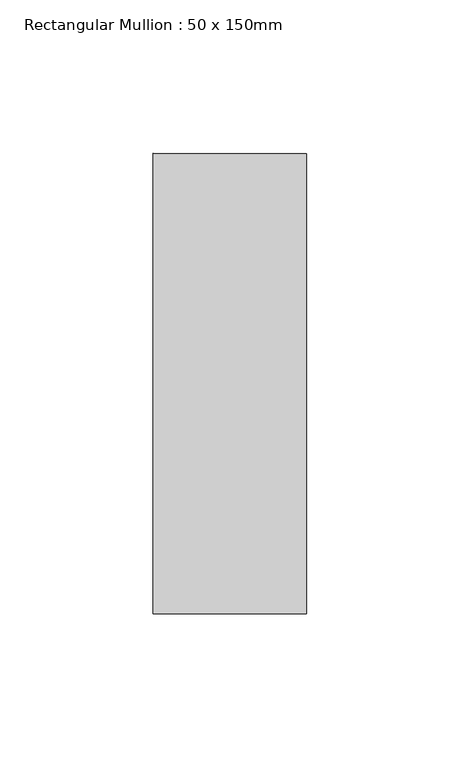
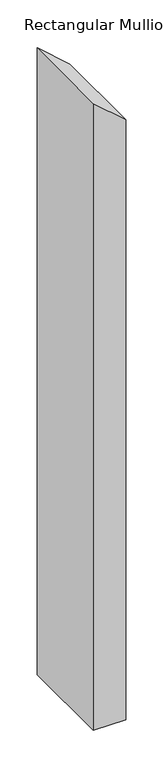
"""IFC4 building model written with IfcOpenShell, lengths in millimetres: member geometry, Rectangular Mullion : 50 x 150mm."""

import ifcopenshell
import ifcopenshell.guid

model = None  # the IFC model being written
_history = None  # IfcOwnerHistory: only IFC2X3 demands one
_inside = {}  # id of a spatial element -> (the spatial element, [elements in it])
_under = {}  # id of a project, library or spatial element -> (it, [spatial elements below it])
_declared = {}  # id of a project -> (the project, [libraries it declares])
_typed = {}  # id of a type object -> (the type object, [elements of that type])
_made_of = {}  # id of a material, layer set ... -> (it, [elements and type objects made of it])


def new_model(schema):
    """Start an empty IFC model of exactly this schema.

    Asked for "IFC4X3", IfcOpenShell would pick the latest addendum, in which some entities
    have other attributes; the version numbers below select the first issue.
    IFC2X3 requires an IfcOwnerHistory on every rooted entity: one is made here for all.
    """
    global model, _history
    if schema == "IFC4X3":
        model = ifcopenshell.file(schema_version=(4, 3, 0, 0))
    else:
        model = ifcopenshell.file(schema=schema)
    _inside.clear()
    _under.clear()
    _declared.clear()
    _typed.clear()
    _made_of.clear()
    _history = None
    if model.schema == "IFC2X3":
        org = make("IfcOrganization", Name="unknown")
        user = make(
            "IfcPersonAndOrganization",
            ThePerson=make("IfcPerson", FamilyName="unknown"),
            TheOrganization=org,
        )
        app = make(
            "IfcApplication",
            ApplicationDeveloper=org,
            Version="unknown",
            ApplicationFullName="unknown",
            ApplicationIdentifier="unknown",
        )
        _history = make(
            "IfcOwnerHistory",
            OwningUser=user,
            OwningApplication=app,
            ChangeAction="ADDED",
            CreationDate=0,
        )
    return model


def make(cls, **values):
    """One entity of the class cls with the attributes given. An attribute that is None is left unset."""
    return model.create_entity(
        cls, **{name: value for name, value in values.items() if value is not None}
    )


def rooted(cls, **values):
    """An entity with a GlobalId (a new one), such as an element, a storey or a relation."""
    return make(cls, GlobalId=ifcopenshell.guid.new(), OwnerHistory=_history, **values)


def si_unit(unit_type, name, prefix=None):
    """IfcSIUnit, for example si_unit("LENGTHUNIT", "METRE", prefix="MILLI")."""
    return make("IfcSIUnit", UnitType=unit_type, Prefix=prefix, Name=name)


def assignment(units):
    """IfcUnitAssignment: the units of a project."""
    return None if units is None else make("IfcUnitAssignment", Units=units)


def point(xyz):
    """IfcCartesianPoint."""
    return None if xyz is None else make("IfcCartesianPoint", Coordinates=xyz)


def direction(xyz):
    """IfcDirection."""
    return None if xyz is None else make("IfcDirection", DirectionRatios=xyz)


def frame(location, z_axis=None, x_axis=None):
    """IfcAxis2Placement3D, a coordinate frame: its origin and axes. An axis left out is left unset."""
    return make(
        "IfcAxis2Placement3D",
        Location=point(location),
        Axis=direction(z_axis),
        RefDirection=direction(x_axis),
    )


def origin():
    """The frame at (0, 0, 0) with its axes left unset."""
    return frame((0.0, 0.0, 0.0))


def place(relative_to, where):
    """IfcLocalPlacement: puts the frame where relative to a parent placement (None: the world)."""
    return make(
        "IfcLocalPlacement", PlacementRelTo=relative_to, RelativePlacement=where
    )


def context(
    kind, dimensions, precision=None, world=None, true_north=None, identifier=None
):
    """IfcGeometricRepresentationContext, for example the 3D "Model" context."""
    return make(
        "IfcGeometricRepresentationContext",
        ContextIdentifier=identifier,
        ContextType=kind,
        CoordinateSpaceDimension=dimensions,
        Precision=precision,
        WorldCoordinateSystem=world,
        TrueNorth=true_north,
    )


def project(units=None, contexts=None):
    """IfcProject with its units and contexts."""
    return rooted(
        "IfcProject",
        Name="project",
        RepresentationContexts=contexts,
        UnitsInContext=assignment(units),
    )


def spatial(cls, under=None, at=None, **own):
    """A site, building, storey or space (cls), placed at a placement, below another one or the project."""
    s = rooted(cls, ObjectPlacement=at, **own)
    if under is not None:
        _under.setdefault(under.id(), (under, []))[1].append(s)
    return s


def polyline(points):
    """IfcPolyline through the points."""
    return make("IfcPolyline", Points=[point(p) for p in points])


def outline(outer, holes=None, kind="AREA"):
    """IfcArbitraryClosedProfileDef: a profile drawn as a closed curve; with holes, ...WithVoids."""
    if holes is None:
        return make("IfcArbitraryClosedProfileDef", ProfileType=kind, OuterCurve=outer)
    return make(
        "IfcArbitraryProfileDefWithVoids",
        ProfileType=kind,
        OuterCurve=outer,
        InnerCurves=holes,
    )


def extrude(swept, where, along, depth):
    """IfcExtrudedAreaSolid: the profile swept, set in the frame where, extruded along a direction by depth."""
    return make(
        "IfcExtrudedAreaSolid",
        SweptArea=swept,
        Position=where,
        ExtrudedDirection=direction(along),
        Depth=depth,
    )


def shape(context_of_items, identifier, shape_type, items):
    """IfcShapeRepresentation: the items that make up one representation, for example the "Body"."""
    return make(
        "IfcShapeRepresentation",
        ContextOfItems=context_of_items,
        RepresentationIdentifier=identifier,
        RepresentationType=shape_type,
        Items=items,
    )


def source(mapping_origin, context_of_items, identifier, shape_type, items):
    """IfcRepresentationMap: a shape defined once, which mapped items show again and again."""
    return make(
        "IfcRepresentationMap",
        MappingOrigin=mapping_origin,
        MappedRepresentation=shape(context_of_items, identifier, shape_type, items),
    )


def transform(
    local_origin,
    x_axis=None,
    y_axis=None,
    z_axis=None,
    scale=None,
    scale2=None,
    scale3=None,
    uniform=True,
):
    """IfcCartesianTransformationOperator3D, or its non-uniform kind. x_axis, y_axis, z_axis: its Axis1, 2, 3."""
    if uniform:
        return make(
            "IfcCartesianTransformationOperator3D",
            Axis1=direction(x_axis),
            Axis2=direction(y_axis),
            LocalOrigin=point(local_origin),
            Scale=scale,
            Axis3=direction(z_axis),
        )
    return make(
        "IfcCartesianTransformationOperator3DnonUniform",
        Axis1=direction(x_axis),
        Axis2=direction(y_axis),
        LocalOrigin=point(local_origin),
        Scale=scale,
        Axis3=direction(z_axis),
        Scale2=scale2,
        Scale3=scale3,
    )


def mapped(mapping_source, mapping_target):
    """IfcMappedItem: shows the shape of a source again, moved by a transform."""
    return make(
        "IfcMappedItem", MappingSource=mapping_source, MappingTarget=mapping_target
    )


def made_of(thing, what):
    """Note that an element or type object is made of a material, layer set ...; save() writes the relation."""
    if what is not None:
        _made_of.setdefault(what.id(), (what, []))[1].append(thing)
    return thing


def element(
    cls,
    number,
    at=None,
    inside=None,
    cuts=None,
    type_object=None,
    material=None,
    context=None,
    identifier="Body",
    shape_type=None,
    held_by="IfcProductDefinitionShape",
    body=None,
    shapes=None,
    **own,
):
    """One element of the class cls, such as IfcWall. Its Tag is "e" and its number.

    at: its placement. inside: the storey or other place that contains it. cuts: it is an
    opening in that element (IfcRelVoidsElement). A single representation is given by context,
    identifier, shape_type and body (its items); several are given by shapes. held_by: the class
    of the entity that holds the representations. save() writes the other relations.
    """
    e = rooted(cls, Tag="e%d" % number, ObjectPlacement=at, **own)
    if body is not None:
        shapes = [shape(context, identifier, shape_type, body)]
    if shapes is not None:
        e.Representation = make(held_by, Representations=shapes)
    if inside is not None:
        _inside.setdefault(inside.id(), (inside, []))[1].append(e)
    if cuts is not None:
        rooted(
            "IfcRelVoidsElement", RelatingBuildingElement=cuts, RelatedOpeningElement=e
        )
    if type_object is not None:
        _typed.setdefault(type_object.id(), (type_object, []))[1].append(e)
    return made_of(e, material)


def aggregate(whole, parts):
    """IfcRelAggregates: a whole, such as a stair, and the parts it consists of."""
    return rooted("IfcRelAggregates", RelatingObject=whole, RelatedObjects=parts)


def save(model, path):
    """Write the relations noted so far, then the file.

    IfcRelAggregates (storeys below a building ...), IfcRelContainedInSpatialStructure (elements
    in a storey), IfcRelDefinesByType, IfcRelAssociatesMaterial and IfcRelDeclares: one each for
    every whole, place, type object, material and project.
    """
    for whole, parts in _under.values():
        aggregate(whole, parts)
    for where, things in _inside.values():
        rooted(
            "IfcRelContainedInSpatialStructure",
            RelatedElements=things,
            RelatingStructure=where,
        )
    for kind, things in _typed.values():
        rooted("IfcRelDefinesByType", RelatedObjects=things, RelatingType=kind)
    for what, things in _made_of.values():
        rooted("IfcRelAssociatesMaterial", RelatedObjects=things, RelatingMaterial=what)
    for by, libraries in _declared.values():
        rooted("IfcRelDeclares", RelatingContext=by, RelatedDefinitions=libraries)
    model.write(path)


def rectangular_mullion_50_x_150mm_52013ad8(model_context):
    return source(origin(), model_context, "Body", "SweptSolid", [
        extrude(outline(polyline([(-88.415239, 25.0), (-44.5773716, -25.0), (-1070.9798258, -25.0), (-1070.9798258, 25.0), (-88.415239, 25.0)])), frame((0.0, -75.0, 0.0), z_axis=(0.0, 1.0, 0.0), x_axis=(0.0, 0.0, 1.0)), (0.0, 0.0, 1.0), 150.0),
    ])


if __name__ == "__main__":
    model = new_model("IFC4")
    model_context = context("Model", 3, world=origin())
    ifc_project = project(units=[si_unit("LENGTHUNIT", "METRE", prefix="MILLI")], contexts=[model_context])
    site = spatial("IfcSite", under=ifc_project)
    building = spatial("IfcBuilding", under=site)
    placement = place(None, origin())
    rectangular_mullion_50_x_150mm_shape = rectangular_mullion_50_x_150mm_52013ad8(model_context)
    element("IfcMember", 1, ObjectType="Rectangular Mullion : 50 x 150mm", at=placement, inside=building, context=model_context, shape_type="MappedRepresentation", body=[
        mapped(rectangular_mullion_50_x_150mm_shape, transform((0.0, 0.0, 0.0), x_axis=(1.0, 0.0, 0.0), y_axis=(0.0, 1.0, 0.0), z_axis=(0.0, 0.0, 1.0))),
    ])
    save(model, "model.ifc")
